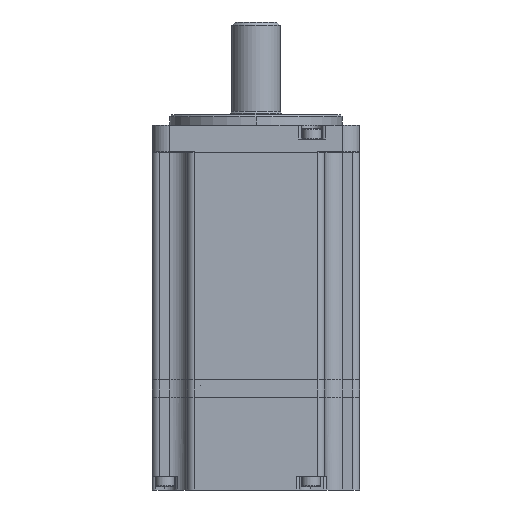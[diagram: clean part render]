
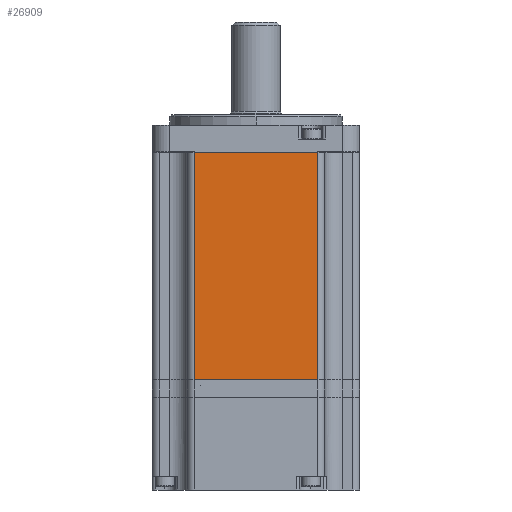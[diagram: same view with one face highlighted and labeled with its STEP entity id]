
A CAD part, front view. The second image highlights one B-rep face of the part: STEP entity #26909.
In plain terms, the highlighted planar face has unit normal (0, -1, 0).
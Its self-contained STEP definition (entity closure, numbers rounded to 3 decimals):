
#2886 = AXIS2_PLACEMENT_3D ( 'NONE', #6369, #6375, #6376 ) ;
#6369 = CARTESIAN_POINT ( 'NONE',  ( -20., -30.1, 66. ) ) ;
#6373 = PLANE ( 'NONE',  #2886 ) ;
#6375 = DIRECTION ( 'NONE',  ( 0., 1., 0. ) ) ;
#6376 = DIRECTION ( 'NONE',  ( 0., 0., 1. ) ) ;
#7045 = FACE_OUTER_BOUND ( 'NONE', #39001, .T. ) ;
#15326 = LINE ( 'NONE', #16986, #15328 ) ;
#15328 = VECTOR ( 'NONE', #16987, 1000. ) ;
#15346 = LINE ( 'NONE', #17030, #15348 ) ;
#15348 = VECTOR ( 'NONE', #17025, 1000. ) ;
#15378 = LINE ( 'NONE', #17083, #15381 ) ;
#15380 = LINE ( 'NONE', #17085, #15383 ) ;
#15381 = VECTOR ( 'NONE', #17084, 1000. ) ;
#15383 = VECTOR ( 'NONE', #17086, 1000. ) ;
#16529 = CARTESIAN_POINT ( 'NONE',  ( -18., -30.1, 66. ) ) ;
#16530 = CARTESIAN_POINT ( 'NONE',  ( 18., -30.1, 66. ) ) ;
#16536 = CARTESIAN_POINT ( 'NONE',  ( -18., -30.1, 0. ) ) ;
#16539 = CARTESIAN_POINT ( 'NONE',  ( 18., -30.1, 0. ) ) ;
#16986 = CARTESIAN_POINT ( 'NONE',  ( -20., -30.1, 66. ) ) ;
#16987 = DIRECTION ( 'NONE',  ( 1., 0., 0. ) ) ;
#17025 = DIRECTION ( 'NONE',  ( 1., 0., 0. ) ) ;
#17030 = CARTESIAN_POINT ( 'NONE',  ( -20., -30.1, 0. ) ) ;
#17083 = CARTESIAN_POINT ( 'NONE',  ( 18., -30.1, 66. ) ) ;
#17084 = DIRECTION ( 'NONE',  ( 0., 0., 1. ) ) ;
#17085 = CARTESIAN_POINT ( 'NONE',  ( -18., -30.1, 66. ) ) ;
#17086 = DIRECTION ( 'NONE',  ( 0., 0., -1. ) ) ;
#26909 = ADVANCED_FACE ( 'NONE', ( #7045 ), #6373, .F. ) ;
#33151 = VERTEX_POINT ( 'NONE', #16529 ) ;
#33152 = VERTEX_POINT ( 'NONE', #16530 ) ;
#33158 = VERTEX_POINT ( 'NONE', #16536 ) ;
#33161 = VERTEX_POINT ( 'NONE', #16539 ) ;
#33436 = EDGE_CURVE ( 'NONE', #33151, #33152, #15326, .T. ) ;
#33451 = EDGE_CURVE ( 'NONE', #33158, #33161, #15346, .T. ) ;
#33472 = EDGE_CURVE ( 'NONE', #33161, #33152, #15378, .T. ) ;
#33473 = EDGE_CURVE ( 'NONE', #33151, #33158, #15380, .T. ) ;
#35025 = ORIENTED_EDGE ( 'NONE', *, *, #33451, .T. ) ;
#35026 = ORIENTED_EDGE ( 'NONE', *, *, #33472, .T. ) ;
#35027 = ORIENTED_EDGE ( 'NONE', *, *, #33436, .F. ) ;
#35028 = ORIENTED_EDGE ( 'NONE', *, *, #33473, .T. ) ;
#39001 = EDGE_LOOP ( 'NONE', ( #35025, #35026, #35027, #35028 ) ) ;
